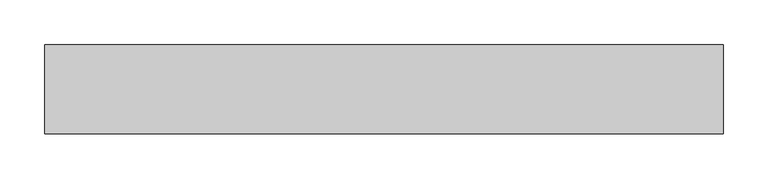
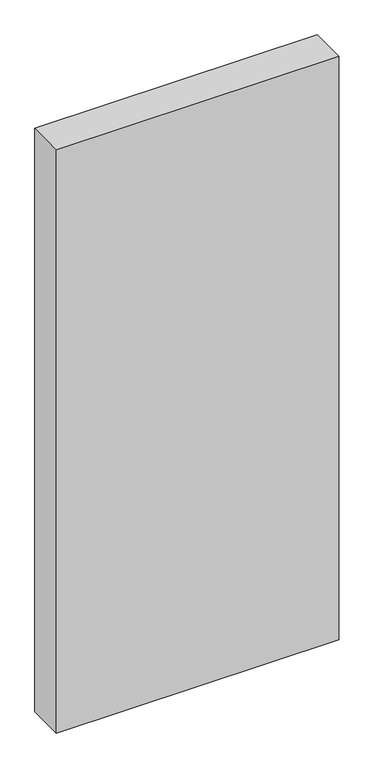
"""IFC4 building model written with IfcOpenShell, lengths in millimetres: proxy geometry, 600x1500 Manway Cover Class D ST-02."""

from ifc_helpers import new_model, si_unit, frame, origin, place, context, project, spatial, polyline, outline, extrude, source, transform, mapped, element, save


def generic_models_729f58d3(model_context):
    return source(origin(), model_context, "Body", "SweptSolid", [
        extrude(outline(polyline([(-380.0, 0.0), (-380.0, 100.0), (380.0, 100.0), (380.0, 0.0), (-380.0, 0.0)])), frame((0.0, 0.0, -830.0), z_axis=(0.0, 0.0, 1.0), x_axis=(1.0, 0.0, 0.0)), (0.0, 0.0, 1.0), 1660.0),
    ])


if __name__ == "__main__":
    model = new_model("IFC4")
    model_context = context("Model", 3, world=origin())
    ifc_project = project(units=[si_unit("LENGTHUNIT", "METRE", prefix="MILLI")], contexts=[model_context])
    site = spatial("IfcSite", under=ifc_project)
    building = spatial("IfcBuilding", under=site)
    placement = place(None, origin())
    generic_models_shape = generic_models_729f58d3(model_context)
    element("IfcBuildingElementProxy", 1, Name="600x1500 Manway Cover Class D ST-02", ObjectType="600x1500 Manway Cover Class D ST-02", at=placement, inside=building, context=model_context, shape_type="MappedRepresentation", body=[
        mapped(generic_models_shape, transform((0.0, 0.0, 0.0), x_axis=(1.0, 0.0, 0.0), y_axis=(0.0, 1.0, 0.0), z_axis=(0.0, 0.0, 1.0))),
    ])
    save(model, "model.ifc")
